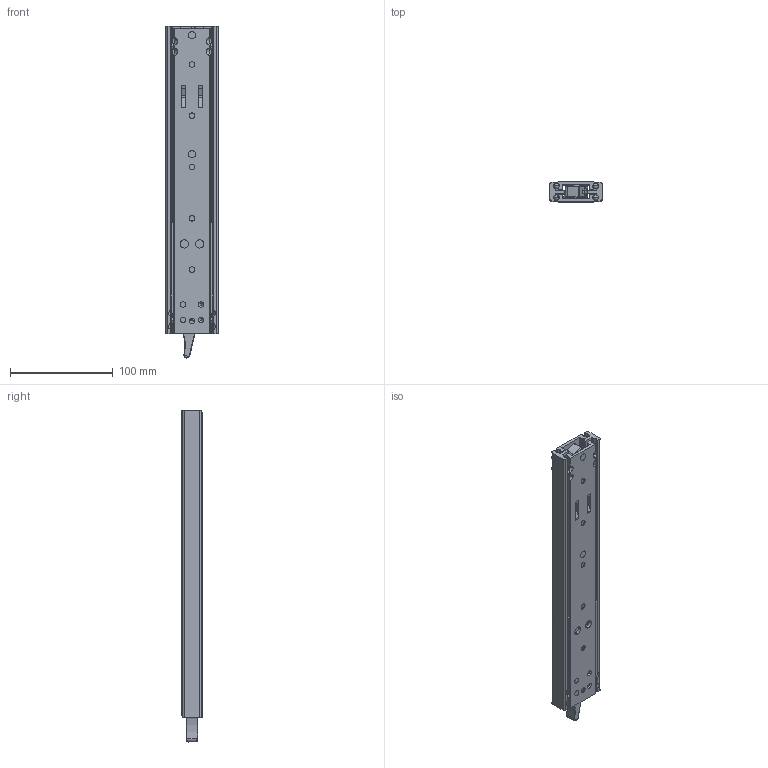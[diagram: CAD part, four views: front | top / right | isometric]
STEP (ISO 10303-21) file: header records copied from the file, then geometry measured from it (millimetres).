
FILE_DESCRIPTION (( 'STEP AP214' ), '1' );
FILE_NAME ('220-300closed.STEP', '2022-03-25T10:32:45', ( '' ), ( '' ), 'SwSTEP 2.0', 'SolidWorks 2021', '' );
FILE_SCHEMA (( 'AUTOMOTIVE_DESIGN' ));
Length unit declared in the file: millimetre
Products named in the file (12): 61_12274.STEP; 61_12276.STEP; 61_12282.STEP; 220-300closed; 370_002_070.STEP; 61_12278_02.STEP; 301_000_008_Fitted.STEP; 61_12719.STEP; 61_13331_Pin Fitted.STEP; 61_12279_02.STEP; 400_000_004.STEP; 61_12280_02_Beam Assembled - Stop Raises .STEP
Assembly tree (27 placements, depth 2):
  220-300closed
    61_12279_02.STEP
    61_12280_02_Beam Assembled - Stop Raises .STEP  x2
    61_13331_Pin Fitted.STEP  x4
    61_12282.STEP
    301_000_008_Fitted.STEP  x2
    61_12274.STEP
    370_002_070.STEP
    61_12719.STEP  x2
    400_000_004.STEP  x8
    61_12278_02.STEP  x4
    61_12276.STEP
Bounding box: 50.7 x 19.75 x 323.69 mm (x, y, z)
Volume: 173832.5 mm3; surface area: 121966.5 mm2
Topology: 27 solids, 27 shells, 1153 faces, 2965 edges, 1828 vertices
Faces by surface type: cylinder 514, plane 267, sphere 161, torus 93, cone 72, bspline 46
Entity records: 27809 total; most frequent: CARTESIAN_POINT 8599, DIRECTION 4084, ORIENTED_EDGE 3882, EDGE_CURVE 1941, AXIS2_PLACEMENT_3D 1624, VERTEX_POINT 1195, CIRCLE 875, EDGE_LOOP 860
